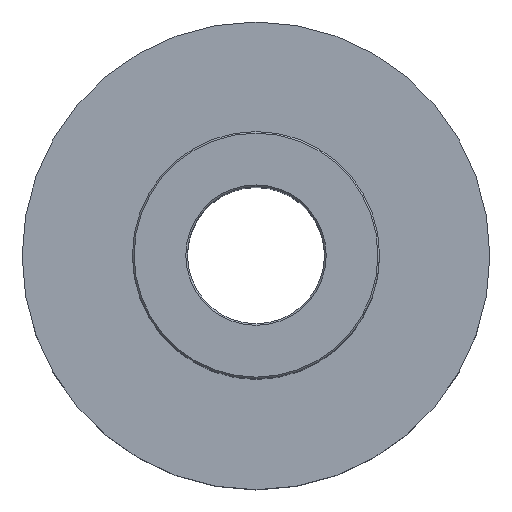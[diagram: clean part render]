
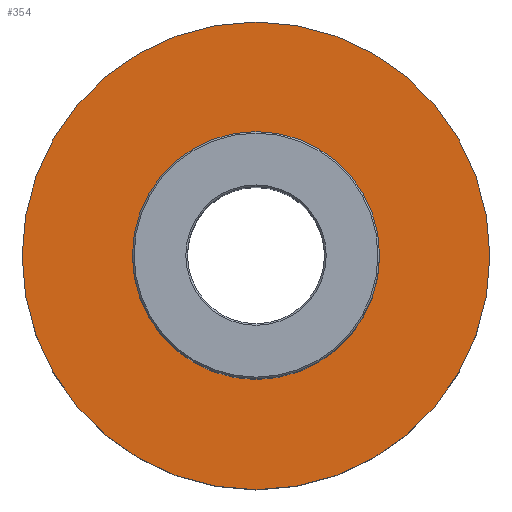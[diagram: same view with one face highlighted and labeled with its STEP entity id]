
A CAD part, top view. The second image highlights one B-rep face of the part: STEP entity #354.
In plain terms, the highlighted planar face has unit normal (0, 0, 1).
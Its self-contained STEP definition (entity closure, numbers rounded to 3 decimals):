
#180 = CYLINDRICAL_SURFACE('',#181,57.65);
#181 = AXIS2_PLACEMENT_3D('',#182,#183,#184);
#182 = CARTESIAN_POINT('',(0.,0.,0.));
#183 = DIRECTION('',(0.,0.,1.));
#184 = DIRECTION('',(1.,0.,-0.));
#251 = VERTEX_POINT('',#252);
#252 = CARTESIAN_POINT('',(57.65,0.,34.9));
#275 = EDGE_CURVE('',#251,#251,#276,.T.);
#276 = SURFACE_CURVE('',#277,(#282,#289),.PCURVE_S1.);
#277 = CIRCLE('',#278,57.65);
#278 = AXIS2_PLACEMENT_3D('',#279,#280,#281);
#279 = CARTESIAN_POINT('',(0.,0.,34.9));
#280 = DIRECTION('',(0.,0.,1.));
#281 = DIRECTION('',(1.,0.,-0.));
#282 = PCURVE('',#180,#283);
#283 = DEFINITIONAL_REPRESENTATION('',(#284),#288);
#284 = LINE('',#285,#286);
#285 = CARTESIAN_POINT('',(0.,34.9));
#286 = VECTOR('',#287,1.);
#287 = DIRECTION('',(1.,0.));
#288 = ( GEOMETRIC_REPRESENTATION_CONTEXT(2) 
PARAMETRIC_REPRESENTATION_CONTEXT() REPRESENTATION_CONTEXT('2D SPACE',''
  ) );
#289 = PCURVE('',#290,#295);
#290 = PLANE('',#291);
#291 = AXIS2_PLACEMENT_3D('',#292,#293,#294);
#292 = CARTESIAN_POINT('',(0.,0.,34.9));
#293 = DIRECTION('',(0.,0.,1.));
#294 = DIRECTION('',(1.,0.,-0.));
#295 = DEFINITIONAL_REPRESENTATION('',(#296),#300);
#296 = CIRCLE('',#297,57.65);
#297 = AXIS2_PLACEMENT_2D('',#298,#299);
#298 = CARTESIAN_POINT('',(0.,0.));
#299 = DIRECTION('',(1.,0.));
#300 = ( GEOMETRIC_REPRESENTATION_CONTEXT(2) 
PARAMETRIC_REPRESENTATION_CONTEXT() REPRESENTATION_CONTEXT('2D SPACE',''
  ) );
#354 = ADVANCED_FACE('',(#355,#358),#290,.T.);
#355 = FACE_BOUND('',#356,.T.);
#356 = EDGE_LOOP('',(#357));
#357 = ORIENTED_EDGE('',*,*,#275,.T.);
#358 = FACE_BOUND('',#359,.T.);
#359 = EDGE_LOOP('',(#360));
#360 = ORIENTED_EDGE('',*,*,#361,.F.);
#361 = EDGE_CURVE('',#362,#362,#364,.T.);
#362 = VERTEX_POINT('',#363);
#363 = CARTESIAN_POINT('',(30.46,0.,34.9));
#364 = SURFACE_CURVE('',#365,(#370,#377),.PCURVE_S1.);
#365 = CIRCLE('',#366,30.46);
#366 = AXIS2_PLACEMENT_3D('',#367,#368,#369);
#367 = CARTESIAN_POINT('',(0.,0.,34.9));
#368 = DIRECTION('',(0.,0.,1.));
#369 = DIRECTION('',(1.,0.,-0.));
#370 = PCURVE('',#290,#371);
#371 = DEFINITIONAL_REPRESENTATION('',(#372),#376);
#372 = CIRCLE('',#373,30.46);
#373 = AXIS2_PLACEMENT_2D('',#374,#375);
#374 = CARTESIAN_POINT('',(0.,0.));
#375 = DIRECTION('',(1.,0.));
#376 = ( GEOMETRIC_REPRESENTATION_CONTEXT(2) 
PARAMETRIC_REPRESENTATION_CONTEXT() REPRESENTATION_CONTEXT('2D SPACE',''
  ) );
#377 = PCURVE('',#378,#383);
#378 = CYLINDRICAL_SURFACE('',#379,30.46);
#379 = AXIS2_PLACEMENT_3D('',#380,#381,#382);
#380 = CARTESIAN_POINT('',(0.,0.,34.9));
#381 = DIRECTION('',(0.,0.,1.));
#382 = DIRECTION('',(1.,0.,-0.));
#383 = DEFINITIONAL_REPRESENTATION('',(#384),#388);
#384 = LINE('',#385,#386);
#385 = CARTESIAN_POINT('',(0.,0.));
#386 = VECTOR('',#387,1.);
#387 = DIRECTION('',(1.,0.));
#388 = ( GEOMETRIC_REPRESENTATION_CONTEXT(2) 
PARAMETRIC_REPRESENTATION_CONTEXT() REPRESENTATION_CONTEXT('2D SPACE',''
  ) );
